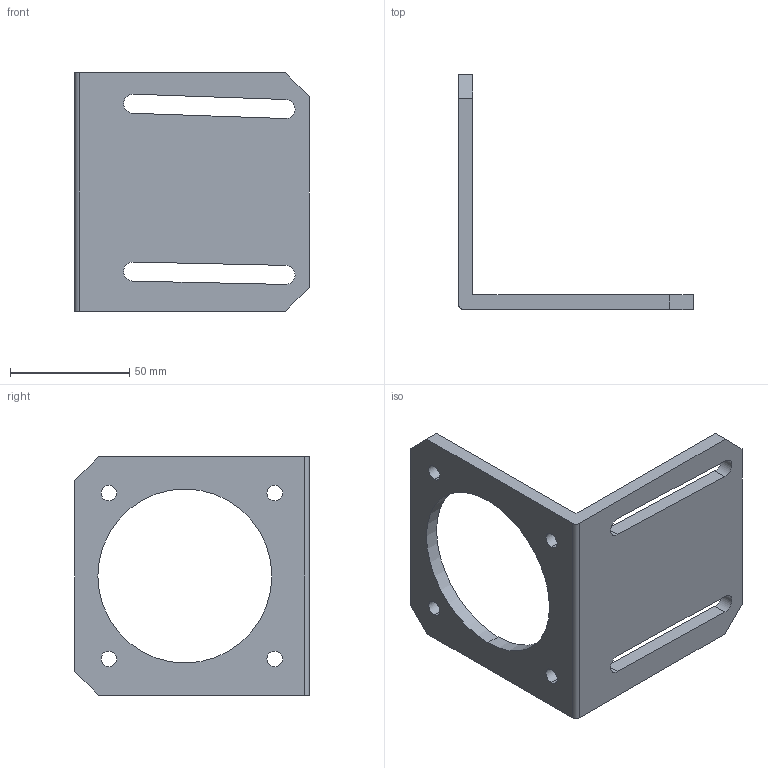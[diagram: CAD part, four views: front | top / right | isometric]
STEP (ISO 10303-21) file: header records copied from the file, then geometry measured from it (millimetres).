
FILE_DESCRIPTION (( 'STEP AP214' ), '1' );
FILE_NAME ('86zj-hs.STEP', '2025-05-16T06:21:20', ( '' ), ( '' ), 'SwSTEP 2.0', 'SolidWorks 2021', '' );
FILE_SCHEMA (( 'AUTOMOTIVE_DESIGN' ));
Length unit declared in the file: millimetre
Products named in the file (1): 86zj-hs
Bounding box: 98.5 x 98.5 x 100 mm (x, y, z)
Volume: 80633.6 mm3; surface area: 33881.6 mm2
Topology: 1 solids, 1 shells, 33 faces, 93 edges, 62 vertices
Faces by surface type: cylinder 17, plane 16
Entity records: 1143 total; most frequent: DIRECTION 195, CARTESIAN_POINT 189, ORIENTED_EDGE 186, EDGE_CURVE 93, AXIS2_PLACEMENT_3D 68, VERTEX_POINT 62, VECTOR 59, LINE 59
